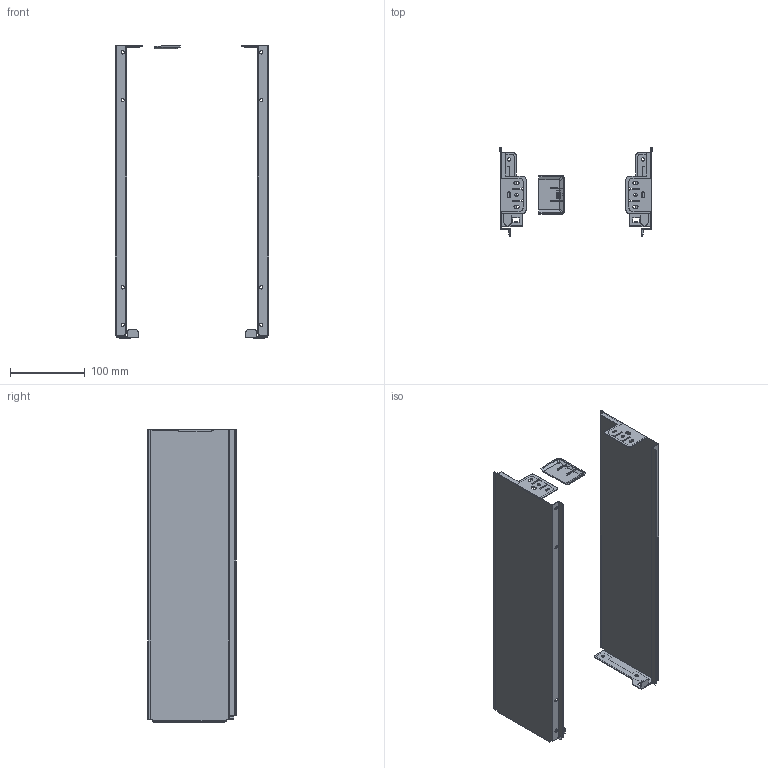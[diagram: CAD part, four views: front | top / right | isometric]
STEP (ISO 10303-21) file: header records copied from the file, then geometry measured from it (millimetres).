
FILE_DESCRIPTION (( 'STEP AP203' ), '1' );
FILE_NAME ('541764.STEP', '2026-04-29T12:48:00', ( '' ), ( '' ), 'SwSTEP 2.0', 'SolidWorks 2025', '' );
FILE_SCHEMA (( 'CONFIG_CONTROL_DESIGN' ));
Length unit declared in the file: millimetre
Products named in the file (4): StrongMini bočnice_P_gen_541764_P; StrongMini bočnice_L_gen_541764_L; StrongMini krytka šroubů; 541764
Assembly tree (3 placements, depth 2):
  541764
    StrongMini bočnice_L_gen_541764_L
    StrongMini bočnice_P_gen_541764_P
    StrongMini krytka šroubů
Bounding box: 205.4 x 118.07 x 392.3 mm (x, y, z)
Volume: 99148.2 mm3; surface area: 234002.6 mm2
Topology: 3 solids, 3 shells, 312 faces, 891 edges, 586 vertices
Faces by surface type: plane 236, cylinder 58, cone 18
Full cylindrical faces by diameter (mm): 4.5 x14
Entity records: 10415 total; most frequent: CARTESIAN_POINT 1843, ORIENTED_EDGE 1726, DIRECTION 1597, EDGE_CURVE 863, LINE 725, VECTOR 725, VERTEX_POINT 578, AXIS2_PLACEMENT_3D 436
